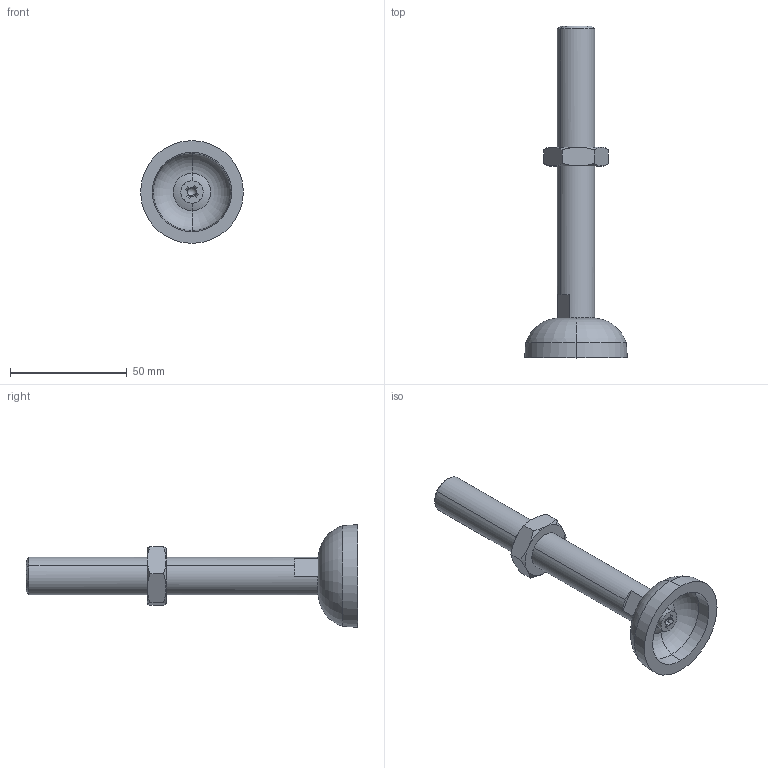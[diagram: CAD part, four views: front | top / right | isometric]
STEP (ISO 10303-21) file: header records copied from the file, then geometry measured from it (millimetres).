
FILE_DESCRIPTION (( 'STEP AP214' ), '1' );
FILE_NAME ('9ab045m16145mn.step', '2014-12-09T08:41:17', ( 'Not-Admin' ), ( 'Hewlett-Packard Company' ), 'SwSTEP 2.0', 'SolidWorks 2014', '' );
FILE_SCHEMA (( 'AUTOMOTIVE_DESIGN' ));
Length unit declared in the file: millimetre
Products named in the file (3): 9ab045m16145mn; 098a45m
Assembly tree (2 placements, depth 2):
  9ab045m16145mn
    098a45m
    9ab045m16145mn
Bounding box: 44 x 142.14 x 44 mm (x, y, z)
Volume: 39312.1 mm3; surface area: 13843 mm2
Topology: 3 solids, 3 shells, 81 faces, 187 edges, 111 vertices
Faces by surface type: cone 32, plane 27, torus 12, cylinder 8, sphere 2
Entity records: 3171 total; most frequent: CARTESIAN_POINT 535, DIRECTION 408, ORIENTED_EDGE 368, EDGE_CURVE 184, AXIS2_PLACEMENT_3D 170, VERTEX_POINT 109, EDGE_LOOP 85, CIRCLE 84
